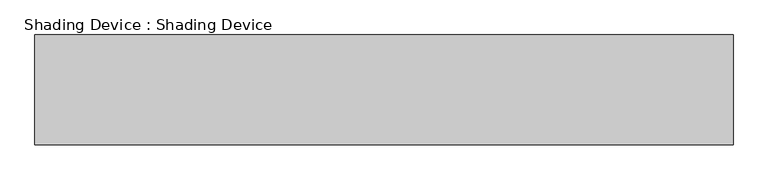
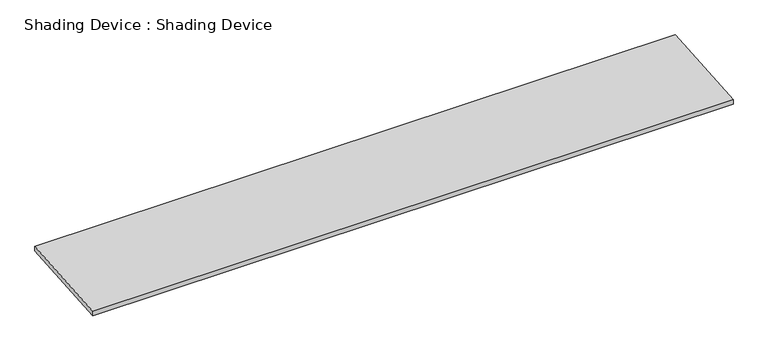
"""IFC4 building model written with IfcOpenShell, lengths in millimetres: proxy geometry, Shading Device : Shading Device."""

from ifc_helpers import new_model, si_unit, point, frame, frame_2d, origin, place, context, project, spatial, polyline, circle_curve, trimmed, segment, composite_curve, outline, extrude, source, transform, mapped, element, save


def shading_device_shading_device_a76b5041(model_context):
    return source(origin(), model_context, "Body", "SweptSolid", [
        extrude(outline(composite_curve([segment(polyline([(-597.5767747, -44.2634276), (-597.5767747, -18.6648778)]), True, "CONTINUOUS"), segment(trimmed(circle_curve(frame_2d((-52.5857034, -3371.2765302)), 3396.6189305), [point((-597.5767747, -18.6648778))], [point((-29.6508083, 25.2649682))], False, "CARTESIAN"), True, "CONTINUOUS"), segment(polyline([(-29.6508083, 25.2649682), (-29.6508083, 0.0)]), True, "CONTINUOUS"), segment(trimmed(circle_curve(frame_2d((-52.5857034, -3371.2765302)), 3371.3545426), [point((-29.6508083, 0.0))], [point((-597.5767747, -44.2634276))], True, "CARTESIAN"), True, "CONTINUOUS")], self_intersect=False)), frame((0.0, 0.0, 0.0), z_axis=(1.0, 0.0, 0.0), x_axis=(0.0, 1.0, 0.0)), (0.0, 0.0, 1.0), 3614.3931831),
    ])


if __name__ == "__main__":
    model = new_model("IFC4")
    model_context = context("Model", 3, world=origin())
    ifc_project = project(units=[si_unit("LENGTHUNIT", "METRE", prefix="MILLI")], contexts=[model_context])
    site = spatial("IfcSite", under=ifc_project)
    building = spatial("IfcBuilding", under=site)
    placement = place(None, origin())
    shading_device_shading_device_shape = shading_device_shading_device_a76b5041(model_context)
    element("IfcBuildingElementProxy", 1, Name="Shading Device : Shading Device", ObjectType="Shading Device : Shading Device", at=placement, inside=building, context=model_context, shape_type="MappedRepresentation", body=[
        mapped(shading_device_shading_device_shape, transform((0.0, 0.0, 0.0), x_axis=(1.0, 0.0, 0.0), y_axis=(0.0, 1.0, 0.0), z_axis=(0.0, 0.0, 1.0))),
    ])
    save(model, "model.ifc")
